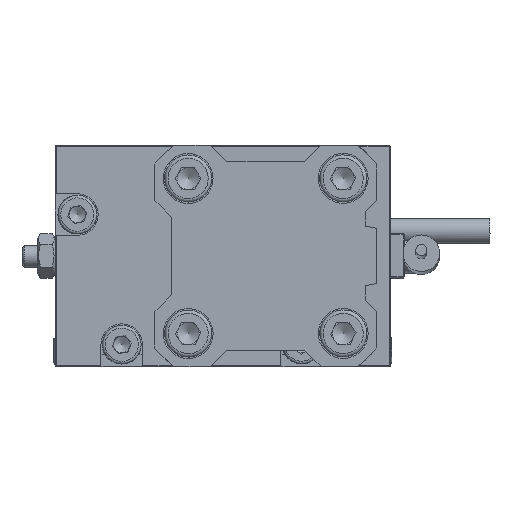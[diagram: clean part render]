
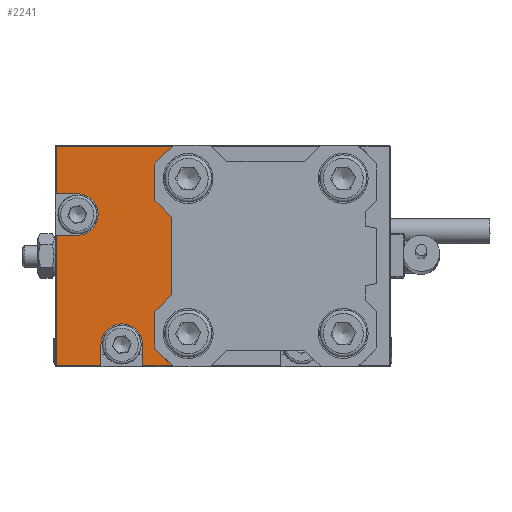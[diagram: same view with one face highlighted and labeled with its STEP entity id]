
A CAD part, front view. The second image highlights one B-rep face of the part: STEP entity #2241.
In plain terms, the highlighted planar face has unit normal (0, -1, 0).
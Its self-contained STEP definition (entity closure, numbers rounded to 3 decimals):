
#394=PLANE('',#18693);
#1310=FACE_OUTER_BOUND('',#7787,.T.);
#2241=ADVANCED_FACE('',(#1310),#394,.T.);
#3661=LINE('',#25746,#5485);
#3664=LINE('',#25752,#5488);
#3667=LINE('',#25758,#5491);
#3670=LINE('',#25764,#5494);
#3673=LINE('',#25770,#5497);
#3727=LINE('',#25943,#5551);
#3728=LINE('',#25945,#5552);
#3729=LINE('',#25947,#5553);
#3730=LINE('',#25948,#5554);
#3731=LINE('',#25950,#5555);
#3732=LINE('',#25952,#5556);
#3733=LINE('',#25954,#5557);
#3734=LINE('',#25955,#5558);
#3735=LINE('',#25957,#5559);
#5485=VECTOR('',#20446,1.);
#5488=VECTOR('',#20451,1.);
#5491=VECTOR('',#20456,1.);
#5494=VECTOR('',#20461,1.);
#5497=VECTOR('',#20466,1.);
#5551=VECTOR('',#20654,1.);
#5552=VECTOR('',#20655,1.);
#5553=VECTOR('',#20656,1.);
#5554=VECTOR('',#20657,1.);
#5555=VECTOR('',#20658,1.);
#5556=VECTOR('',#20659,1.);
#5557=VECTOR('',#20660,1.);
#5558=VECTOR('',#20661,1.);
#5559=VECTOR('',#20662,1.);
#7787=EDGE_LOOP('',(#9443,#9444,#9445,#9446,#9447,#9448,#9449,#9450,#9451,
#9452,#9453,#9454,#9455,#9456,#9457,#9458,#9459,#9460));
#9443=ORIENTED_EDGE('',*,*,#15760,.F.);
#9444=ORIENTED_EDGE('',*,*,#15757,.F.);
#9445=ORIENTED_EDGE('',*,*,#15754,.F.);
#9446=ORIENTED_EDGE('',*,*,#15751,.F.);
#9447=ORIENTED_EDGE('',*,*,#15748,.F.);
#9448=ORIENTED_EDGE('',*,*,#15745,.F.);
#9449=ORIENTED_EDGE('',*,*,#15742,.F.);
#9450=ORIENTED_EDGE('',*,*,#15838,.T.);
#9451=ORIENTED_EDGE('',*,*,#15839,.T.);
#9452=ORIENTED_EDGE('',*,*,#15840,.F.);
#9453=ORIENTED_EDGE('',*,*,#15632,.F.);
#9454=ORIENTED_EDGE('',*,*,#15841,.F.);
#9455=ORIENTED_EDGE('',*,*,#15842,.T.);
#9456=ORIENTED_EDGE('',*,*,#15843,.T.);
#9457=ORIENTED_EDGE('',*,*,#15844,.F.);
#9458=ORIENTED_EDGE('',*,*,#15628,.F.);
#9459=ORIENTED_EDGE('',*,*,#15845,.F.);
#9460=ORIENTED_EDGE('',*,*,#15846,.T.);
#14022=VERTEX_POINT('',#25488);
#14023=VERTEX_POINT('',#25490);
#14026=VERTEX_POINT('',#25497);
#14027=VERTEX_POINT('',#25499);
#14097=VERTEX_POINT('',#25674);
#14122=VERTEX_POINT('',#25739);
#14123=VERTEX_POINT('',#25741);
#14125=VERTEX_POINT('',#25747);
#14127=VERTEX_POINT('',#25753);
#14129=VERTEX_POINT('',#25759);
#14131=VERTEX_POINT('',#25765);
#14133=VERTEX_POINT('',#25771);
#14185=VERTEX_POINT('',#25944);
#14186=VERTEX_POINT('',#25946);
#14187=VERTEX_POINT('',#25949);
#14188=VERTEX_POINT('',#25951);
#14189=VERTEX_POINT('',#25953);
#14190=VERTEX_POINT('',#25956);
#15628=EDGE_CURVE('',#14022,#14023,#18053,.T.);
#15632=EDGE_CURVE('',#14026,#14027,#18055,.T.);
#15742=EDGE_CURVE('',#14122,#14123,#18074,.T.);
#15745=EDGE_CURVE('',#14123,#14125,#3661,.T.);
#15748=EDGE_CURVE('',#14125,#14127,#3664,.T.);
#15751=EDGE_CURVE('',#14127,#14129,#3667,.T.);
#15754=EDGE_CURVE('',#14129,#14131,#3670,.T.);
#15757=EDGE_CURVE('',#14131,#14133,#3673,.T.);
#15760=EDGE_CURVE('',#14133,#14097,#18076,.T.);
#15838=EDGE_CURVE('',#14122,#14185,#3727,.T.);
#15839=EDGE_CURVE('',#14185,#14186,#3728,.T.);
#15840=EDGE_CURVE('',#14027,#14186,#3729,.T.);
#15841=EDGE_CURVE('',#14187,#14026,#3730,.T.);
#15842=EDGE_CURVE('',#14187,#14188,#3731,.T.);
#15843=EDGE_CURVE('',#14188,#14189,#3732,.T.);
#15844=EDGE_CURVE('',#14023,#14189,#3733,.T.);
#15845=EDGE_CURVE('',#14190,#14022,#3734,.T.);
#15846=EDGE_CURVE('',#14190,#14097,#3735,.T.);
#18053=CIRCLE('',#18570,3.75);
#18055=CIRCLE('',#18573,3.75);
#18074=CIRCLE('',#18619,26.);
#18076=CIRCLE('',#18627,26.);
#18570=AXIS2_PLACEMENT_3D('',#25489,#20251,#20252);
#18573=AXIS2_PLACEMENT_3D('',#25498,#20259,#20260);
#18619=AXIS2_PLACEMENT_3D('',#25740,#20439,#20440);
#18627=AXIS2_PLACEMENT_3D('',#25776,#20471,#20472);
#18693=AXIS2_PLACEMENT_3D('',#25958,#20663,#20664);
#20251=DIRECTION('',(0.,-1.,0.));
#20252=DIRECTION('',(1.,0.,0.001));
#20259=DIRECTION('',(0.,-1.,0.));
#20260=DIRECTION('',(1.,0.,0.001));
#20439=DIRECTION('',(0.,-1.,0.));
#20440=DIRECTION('',(0.001,0.,-1.));
#20446=DIRECTION('',(0.001,0.,-1.));
#20451=DIRECTION('',(0.707,0.,-0.707));
#20456=DIRECTION('',(0.001,0.,-1.));
#20461=DIRECTION('',(-0.707,0.,-0.707));
#20466=DIRECTION('',(0.001,0.,-1.));
#20471=DIRECTION('',(0.,-1.,0.));
#20472=DIRECTION('',(0.001,0.,-1.));
#20654=DIRECTION('',(-1.,0.,-0.001));
#20655=DIRECTION('',(0.001,0.,-1.));
#20656=DIRECTION('',(-1.,0.,-0.001));
#20657=DIRECTION('',(1.,0.,0.001));
#20658=DIRECTION('',(0.001,0.,-1.));
#20659=DIRECTION('',(1.,0.,0.001));
#20660=DIRECTION('',(0.001,0.,-1.));
#20661=DIRECTION('',(-0.001,0.,1.));
#20662=DIRECTION('',(1.,0.,0.001));
#20663=DIRECTION('',(0.,-1.,0.));
#20664=DIRECTION('',(1.,0.,0.001));
#25488=CARTESIAN_POINT('',(-22.242,0.,-16.011));
#25489=CARTESIAN_POINT('',(-25.992,0.,-16.013));
#25490=CARTESIAN_POINT('',(-29.742,0.,-16.015));
#25497=CARTESIAN_POINT('',(-34.002,0.,3.733));
#25498=CARTESIAN_POINT('',(-34.004,0.,7.483));
#25499=CARTESIAN_POINT('',(-34.006,0.,11.233));
#25674=CARTESIAN_POINT('',(-16.841,0.,-19.809));
#25739=CARTESIAN_POINT('',(-16.861,0.,19.791));
#25740=CARTESIAN_POINT('',(0.,0.,
0.));
#25741=CARTESIAN_POINT('',(-20.009,0.,16.603));
#25746=CARTESIAN_POINT('',(-20.009,0.,16.603));
#25747=CARTESIAN_POINT('',(-20.005,0.,9.99));
#25752=CARTESIAN_POINT('',(-20.005,0.,9.99));
#25753=CARTESIAN_POINT('',(-17.004,0.,6.991));
#25758=CARTESIAN_POINT('',(-17.004,0.,6.991));
#25759=CARTESIAN_POINT('',(-16.996,0.,-7.009));
#25764=CARTESIAN_POINT('',(-16.996,0.,-7.009));
#25765=CARTESIAN_POINT('',(-19.995,0.,-10.01));
#25770=CARTESIAN_POINT('',(-19.995,0.,-10.01));
#25771=CARTESIAN_POINT('',(-19.991,0.,-16.623));
#25776=CARTESIAN_POINT('',(0.,0.,0.));
#25943=CARTESIAN_POINT('',(-37.81,0.,19.781));
#25944=CARTESIAN_POINT('',(-37.81,0.,19.781));
#25945=CARTESIAN_POINT('',(-37.8,0.,-0.019));
#25946=CARTESIAN_POINT('',(-37.806,0.,11.231));
#25947=CARTESIAN_POINT('',(-34.006,0.,11.233));
#25948=CARTESIAN_POINT('',(-34.002,0.,3.733));
#25949=CARTESIAN_POINT('',(-37.802,0.,3.731));
#25950=CARTESIAN_POINT('',(-37.8,0.,-0.019));
#25951=CARTESIAN_POINT('',(-37.79,0.,-19.819));
#25952=CARTESIAN_POINT('',(22.31,0.,-19.789));
#25953=CARTESIAN_POINT('',(-29.74,0.,-19.815));
#25954=CARTESIAN_POINT('',(-29.742,0.,-16.015));
#25955=CARTESIAN_POINT('',(-22.242,0.,-16.011));
#25956=CARTESIAN_POINT('',(-22.24,0.,-19.811));
#25957=CARTESIAN_POINT('',(22.31,0.,-19.789));
#25958=CARTESIAN_POINT('',(-7.75,0.,-0.004));
